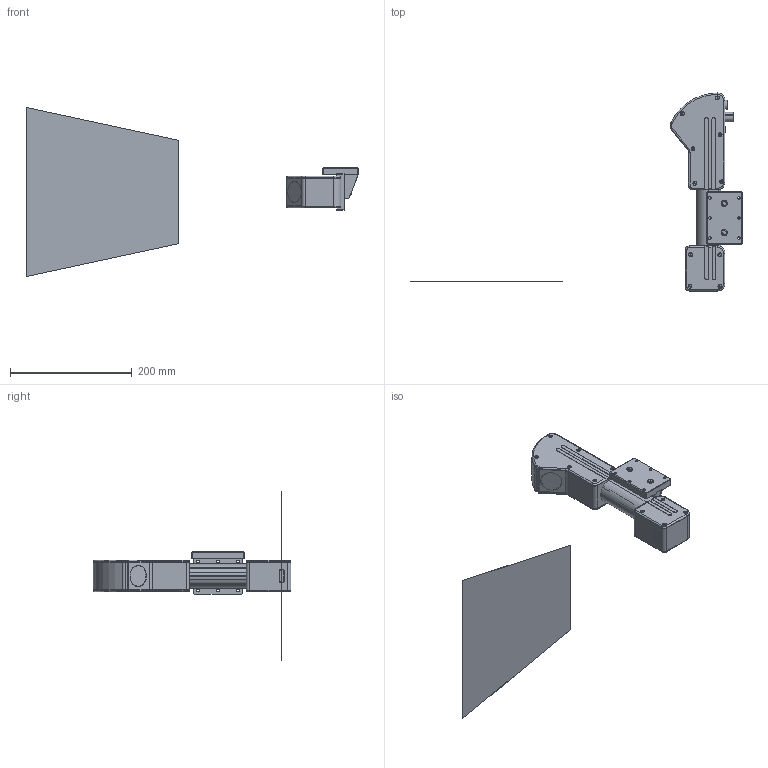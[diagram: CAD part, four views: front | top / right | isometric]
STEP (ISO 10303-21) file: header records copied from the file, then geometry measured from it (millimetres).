
FILE_DESCRIPTION (( 'STEP AP214' ), '1' );
FILE_NAME ('ÐÔ 627.180_250.000_Ñêàíåð áàëî÷íûé 250-êà äëÿ ñàéòà.STEP', '2019-07-02T10:19:12', ( 'test' ), ( 'Ref' ), 'SwSTEP 2.0', 'SolidWorks 2015', '' );
FILE_SCHEMA (( 'AUTOMOTIVE_DESIGN' ));
Length unit declared in the file: millimetre
Products named in the file (37): Ñòåêëî Ä35; Submodel-noModelForPart_1553488_341613795_1; 妈眚 篑蜞眍忸黜 DIN 913 M5; Âèíò_Ì2õ6; Âèíò_Ì5õ15; Submodel-noModelForPart_FH12-06S-1SH_lpar_55_rpar__1599555785_1; Submodel-Binder_09-0428-30-08_3952738181_part_Binder_09-0428-30-08_1; Submodel-noModelForPart_FH12-32S-0.5SH_lpar_55_rpar__2555814880_1; Submodel-1553488_341613795_part_PHOENIX_1553488_1; uid__27_1; placementOutline_1; Ïðîôèëü _40X40_HR - 250-êà; placementOutline_1_2; Ñòåêëî ìàëîå 23-8; Âèíò_Ì3x8 â ïîòàé; Submodel-FH12-32S-0.5SH_lpar_55_rpar__2555814880_part_FH12-32S-0.5SH_1; ÐÔ 627.180_250.000_Ñêàíåð áàëî÷íûé 250-êà äëÿ ñàéòà; Submodel-FH12-06S-1SH_lpar_55_rpar__1599555785_part_FH12-06S-1SH_1; RF627_80_0171 ïîñëåäíÿÿ; Submodel-noModelForPart_Binder_09-0428-30-08_3952738181_1; 膰豵鵨 錟谾譇 700-罻; Êðûøêà  ëåâàÿ 3 300-êà; Êðûøêà  ïðàâàÿ 3 300-êà; Âèíò_Ì6õ20; 性 625.75_ 袜觌彘赅_觏铒觇; Âèíò_Ì3x10 â ïîòàé; Ïîëå âèäåíèÿ 250-êà áàëî÷íûé; 膰豵鵨 3 300-罻; Øàéáà ïðóæèííàÿ_12; Êðûøêà ìîäóëÿ ëàçåðà; Áîëò_Ì12õ40; Êðîíøòåéí  êðåï¸æíûé çàäíèé 2; placementOutline_1_4; placementOutline_1_3; DesignRootModel_1; Êðîíøòåéí äîïîëíèòåëüíûé 80-12
Assembly tree (62 placements, depth 6):
  ÐÔ 627.180_250.000_Ñêàíåð áàëî÷íûé 250-êà äëÿ ñàéòà
    RF627_80_0171 ïîñëåäíÿÿ
      DesignRootModel_1
        uid__27_1
        Submodel-1553488_341613795_part_PHOENIX_1553488_1
          Submodel-noModelForPart_1553488_341613795_1
            placementOutline_1
        Submodel-Binder_09-0428-30-08_3952738181_part_Binder_09-0428-30-08_1
          Submodel-noModelForPart_Binder_09-0428-30-08_3952738181_1
            placementOutline_1_2
        Submodel-FH12-06S-1SH_lpar_55_rpar__1599555785_part_FH12-06S-1SH_1  x2
          Submodel-noModelForPart_FH12-06S-1SH_lpar_55_rpar__1599555785_1
            placementOutline_1_3
        Submodel-FH12-32S-0.5SH_lpar_55_rpar__2555814880_part_FH12-32S-0.5SH_1
          Submodel-noModelForPart_FH12-32S-0.5SH_lpar_55_rpar__2555814880_1
            placementOutline_1_4
    性 625.75_ 袜觌彘赅_觏铒觇
    膰豵鵨 錟谾譇 700-罻
    Âèíò_Ì2õ6  x4
    Êðîíøòåéí  êðåï¸æíûé çàäíèé 2
    Êðûøêà ìîäóëÿ ëàçåðà
    妈眚 篑蜞眍忸黜 DIN 913 M5  x2
    Âèíò_Ì3x8 â ïîòàé  x4
    Âèíò_Ì5õ15  x6
    Êðîíøòåéí äîïîëíèòåëüíûé 80-12
    Áîëò_Ì12õ40
    Áîëò_Ì12õ40
    Øàéáà ïðóæèííàÿ_12  x2
    Âèíò_Ì6õ20  x2
    Ñòåêëî Ä35
    膰豵鵨 3 300-罻
    Êðûøêà  ïðàâàÿ 3 300-êà
    Êðûøêà  ëåâàÿ 3 300-êà
    Âèíò_Ì3x10 â ïîòàé  x12
    Ïðîôèëü _40X40_HR - 250-êà
    Ñòåêëî ìàëîå 23-8
    Ïîëå âèäåíèÿ 250-êà áàëî÷íûé
Bounding box: 546 x 325.62 x 278 mm (x, y, z)
Volume: 550242.8 mm3; surface area: 370785.9 mm2
Topology: 54 solids, 54 shells, 1937 faces, 4878 edges, 3096 vertices
Faces by surface type: plane 959, cylinder 587, cone 213, torus 94, bspline 84
Entity records: 53668 total; most frequent: CARTESIAN_POINT 12738, DIRECTION 7619, ORIENTED_EDGE 7576, EDGE_CURVE 3788, AXIS2_PLACEMENT_3D 2594, VERTEX_POINT 2465, VECTOR 2431, LINE 2431
